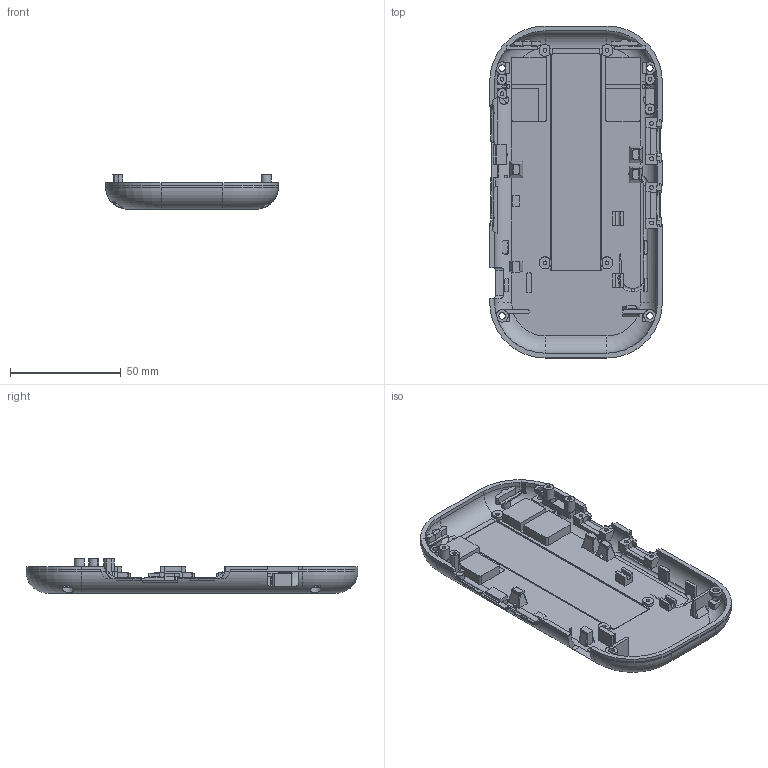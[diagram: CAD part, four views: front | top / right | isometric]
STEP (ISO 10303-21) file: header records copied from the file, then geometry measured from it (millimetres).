
FILE_DESCRIPTION(('Open CASCADE Model'),'2;1');
FILE_NAME('Open CASCADE Shape Model','2026-09-15T15:09:40',('Author'),( 'Open CASCADE'),'Open CASCADE STEP processor 7.7','Open CASCADE 7.7' ,'Unknown');
FILE_SCHEMA(('AUTOMOTIVE_DESIGN { 1 0 10303 214 1 1 1 1 }'));
Products named in the file (1): Open CASCADE STEP translator 7.7 2
Bounding box: 78 x 150 x 15.6 mm (x, y, z)
Volume: 34712.1 mm3; surface area: 32507 mm2
Topology: 1 solids, 1 shells, 913 faces, 2742 edges, 1848 vertices
Faces by surface type: plane 563, cylinder 244, bspline 48, torus 36, cone 22
Full cylindrical faces by diameter (mm): 1.7 x8, 1.8 x4, 2.17 x1, 2.9 x7, 4.2 x4
Entity records: 100599 total; most frequent: CARTESIAN_POINT 49931, DIRECTION 8374, ORIENTED_EDGE 5484, PCURVE 5484, DEFINITIONAL_REPRESENTATION 5484, LINE 4798, VECTOR 4798, EDGE_CURVE 2742
